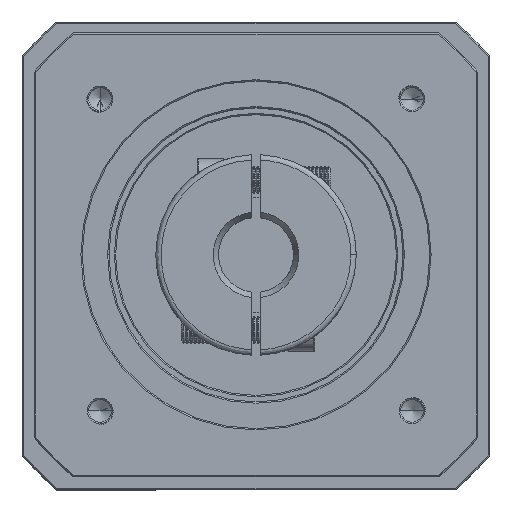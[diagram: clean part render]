
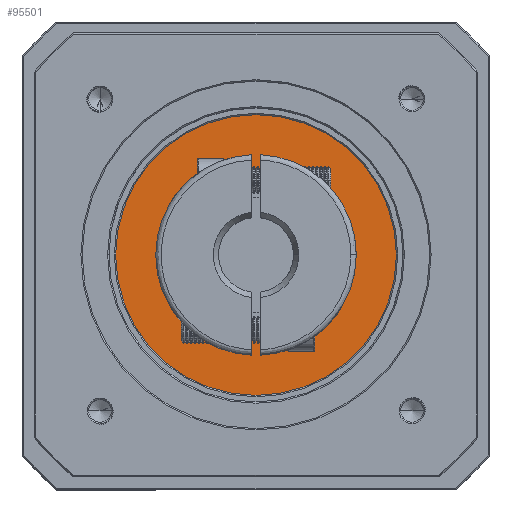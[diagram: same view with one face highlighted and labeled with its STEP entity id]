
A CAD part, top view. The second image highlights one B-rep face of the part: STEP entity #95501.
In plain terms, the highlighted planar face has unit normal (0, 0, 1).
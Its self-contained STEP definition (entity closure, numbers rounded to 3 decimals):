
#1303 = EDGE_CURVE ( 'NONE', #70186, #98067, #94731, .T. ) ;
#7872 = DIRECTION ( 'NONE',  ( 0., 0., -1. ) ) ;
#11445 = CARTESIAN_POINT ( 'NONE',  ( 4.993, -5.561, 315.45 ) ) ;
#13610 = AXIS2_PLACEMENT_3D ( 'NONE', #34743, #23415, #14290 ) ;
#14290 = DIRECTION ( 'NONE',  ( 1., 0., 0. ) ) ;
#14665 = ORIENTED_EDGE ( 'NONE', *, *, #51227, .F. ) ;
#19251 = CARTESIAN_POINT ( 'NONE',  ( -100.007, -5.561, 315.45 ) ) ;
#23415 = DIRECTION ( 'NONE',  ( 0., 0., -1. ) ) ;
#23795 = EDGE_LOOP ( 'NONE', ( #112704, #110867 ) ) ;
#32943 = DIRECTION ( 'NONE',  ( 1., 0., 0. ) ) ;
#34743 = CARTESIAN_POINT ( 'NONE',  ( -47.507, -5.561, 315.45 ) ) ;
#38871 = CARTESIAN_POINT ( 'NONE',  ( -47.507, -5.561, 315.45 ) ) ;
#43022 = CARTESIAN_POINT ( 'NONE',  ( -47.507, -5.561, 315.45 ) ) ;
#43768 = CIRCLE ( 'NONE', #122310, 52.5 ) ;
#45618 = DIRECTION ( 'NONE',  ( 0., 0., -1. ) ) ;
#47395 = EDGE_CURVE ( 'NONE', #98067, #70186, #89896, .T. ) ;
#48191 = FACE_OUTER_BOUND ( 'NONE', #68572, .T. ) ;
#51227 = EDGE_CURVE ( 'NONE', #60722, #70758, #43768, .T. ) ;
#60722 = VERTEX_POINT ( 'NONE', #11445 ) ;
#66633 = DIRECTION ( 'NONE',  ( -1., 0., 0. ) ) ;
#68572 = EDGE_LOOP ( 'NONE', ( #110941, #14665 ) ) ;
#70186 = VERTEX_POINT ( 'NONE', #107253 ) ;
#70758 = VERTEX_POINT ( 'NONE', #19251 ) ;
#74055 = DIRECTION ( 'NONE',  ( 0., 0., -1. ) ) ;
#89896 = CIRCLE ( 'NONE', #114749, 30.5 ) ;
#94222 = DIRECTION ( 'NONE',  ( -1., 0., 0. ) ) ;
#94731 = CIRCLE ( 'NONE', #13610, 30.5 ) ;
#95501 = ADVANCED_FACE ( 'NONE', ( #134924, #48191 ), #133916, .F. ) ;
#98067 = VERTEX_POINT ( 'NONE', #131980 ) ;
#102191 = CIRCLE ( 'NONE', #118409, 52.5 ) ;
#103317 = DIRECTION ( 'NONE',  ( -1., 0., 0. ) ) ;
#107253 = CARTESIAN_POINT ( 'NONE',  ( -17.007, -5.561, 315.45 ) ) ;
#110867 = ORIENTED_EDGE ( 'NONE', *, *, #47395, .T. ) ;
#110941 = ORIENTED_EDGE ( 'NONE', *, *, #125200, .F. ) ;
#112704 = ORIENTED_EDGE ( 'NONE', *, *, #1303, .T. ) ;
#114749 = AXIS2_PLACEMENT_3D ( 'NONE', #125795, #74055, #32943 ) ;
#115750 = DIRECTION ( 'NONE',  ( 0., 0., -1. ) ) ;
#118409 = AXIS2_PLACEMENT_3D ( 'NONE', #129314, #45618, #66633 ) ;
#122310 = AXIS2_PLACEMENT_3D ( 'NONE', #43022, #115750, #94222 ) ;
#125200 = EDGE_CURVE ( 'NONE', #70758, #60722, #102191, .T. ) ;
#125795 = CARTESIAN_POINT ( 'NONE',  ( -47.507, -5.561, 315.45 ) ) ;
#129314 = CARTESIAN_POINT ( 'NONE',  ( -47.507, -5.561, 315.45 ) ) ;
#131980 = CARTESIAN_POINT ( 'NONE',  ( -78.007, -5.561, 315.45 ) ) ;
#133657 = AXIS2_PLACEMENT_3D ( 'NONE', #38871, #7872, #103317 ) ;
#133916 = PLANE ( 'NONE',  #133657 ) ;
#134924 = FACE_BOUND ( 'NONE', #23795, .T. ) ;
